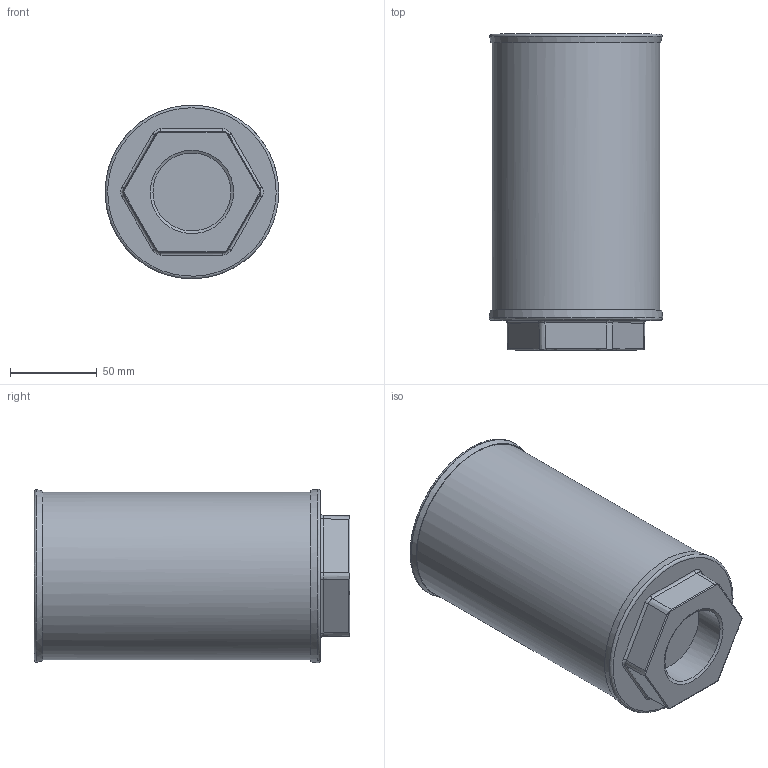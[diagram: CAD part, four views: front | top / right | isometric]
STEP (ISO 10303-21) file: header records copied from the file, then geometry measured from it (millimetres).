
FILE_DESCRIPTION((''),'2;1');
FILE_NAME('U:\Users\t.schleuter\Saugfilter14533000(243663).stp', '2013-04-15T10:08:34',('User'),('SDRC'),'I-DEAS Master Series 9','UNIX', 'Yes');
FILE_SCHEMA(('AUTOMOTIVE_DESIGN { 1 0 10303 214 1 1 1 1 }'));
Length unit declared in the file: millimetre
Products named in the file (1): 14533000(243663)
Bounding box: 99.91 x 182 x 99.92 mm (x, y, z)
Volume: 1256208.8 mm3; surface area: 78597.8 mm2
Topology: 1 solids, 1 shells, 53 faces, 116 edges, 73 vertices
Faces by surface type: bspline 53
Entity records: 1808 total; most frequent: CARTESIAN_POINT 1066, ORIENTED_EDGE 228, EDGE_CURVE 114, VERTEX_POINT 69, B_SPLINE_CURVE_WITH_KNOTS 67, EDGE_LOOP 59, FACE_OUTER_BOUND 53, ADVANCED_FACE 53
